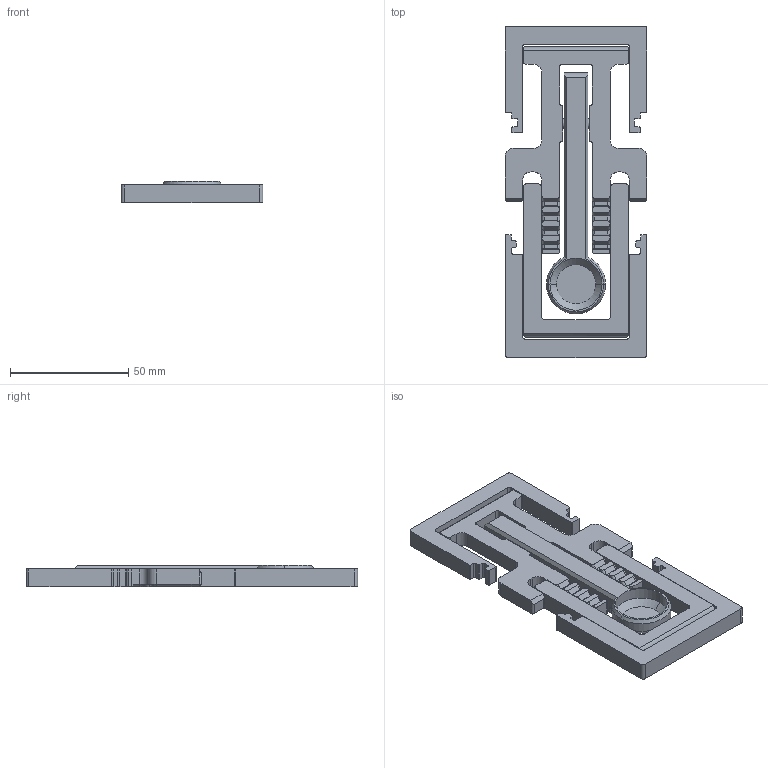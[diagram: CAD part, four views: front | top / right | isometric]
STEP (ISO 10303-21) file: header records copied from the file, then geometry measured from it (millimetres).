
FILE_DESCRIPTION (( 'STEP AP214' ), '1' );
FILE_NAME ('Print In Place Catapult.STEP', '2025-10-02T10:54:25', ( '' ), ( '' ), 'SwSTEP 2.0', 'SolidWorks 2025', '' );
FILE_SCHEMA (( 'AUTOMOTIVE_DESIGN' ));
Length unit declared in the file: millimetre
Products named in the file (1): Print In Place Catapult
Bounding box: 60 x 140 x 9 mm (x, y, z)
Volume: 46468.1 mm3; surface area: 26462.3 mm2
Topology: 5 solids, 5 shells, 430 faces, 1103 edges, 678 vertices
Faces by surface type: cylinder 191, plane 187, cone 36, torus 16
Entity records: 15907 total; most frequent: CARTESIAN_POINT 2690, ORIENTED_EDGE 2186, DIRECTION 2091, EDGE_CURVE 1093, AXIS2_PLACEMENT_3D 705, VECTOR 681, LINE 681, VERTEX_POINT 678
